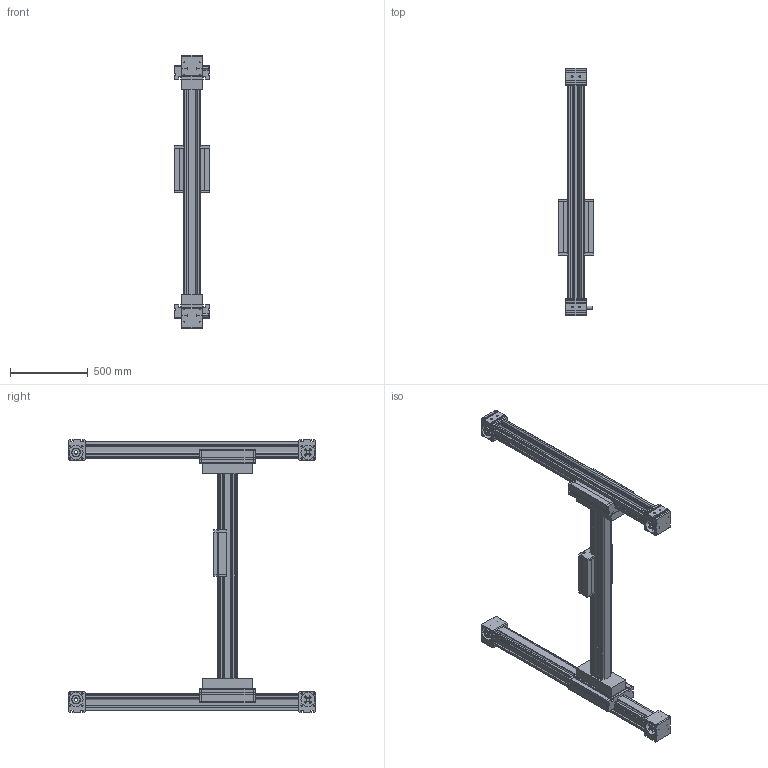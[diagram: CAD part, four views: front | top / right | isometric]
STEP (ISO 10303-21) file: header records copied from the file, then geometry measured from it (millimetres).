
FILE_DESCRIPTION (( 'STEP AP214' ), '1' );
FILE_NAME ('ELZU-100.STEP', '2016-01-14T10:15:24', ( 'admin' ), ( '' ), 'SwSTEP 2.0', 'SolidWorks 2015', '' );
FILE_SCHEMA (( 'AUTOMOTIVE_DESIGN' ));
Length unit declared in the file: millimetre
Products named in the file (12): Kopie von Bahr-ELZU-X-Axis - Q=331_ELZ100 Carriage (Y)^ELZU100 S0 A1_A; Kopie von Bahr-ELZU-X-Axis - Q=331_ELZ100 Extrusion (X)^ELZU100 S0 A1_0; Kopie von Bahr-ELZU-X-Axis - Q=331_ELZ100 Extrusion (Y)^ELZU100 S0 A1_0; Kopie von Bahr-ELZU-X-Axis - Q=331_Belt (X)^ELZU100 S0 A1; Kopie von Bahr-ELZU-X-Axis - Q=331_Belt (Y)^ELZU100 S0 A1; Kopie von Bahr-ELZU-X-Axis - Q=331_End_Block(4)^ELZU100 S0 A1_ELZ-100-B; Kopie von Bahr-ELZU-X-Axis - Q=331_End_Block(3)^ELZU100 S0 A1_ELZ-100-C; Kopie von Bahr-ELZU-X-Axis - Q=331_End_Block(2)^ELZU100 S0 A1_ELZ-100-A; Kopie von Bahr-ELZU-X-Axis - Q=331_End_Block(1)^ELZU100 S0 A1_ELZ-100-D; ELZU-100; Kopie von Umlenkung^ELZU100 S0 A1; Kopie von Bahr-ELZU-X-Axis - Q=331_ELZ100 Carriage (X)^ELZU100 S0 A1_A
Assembly tree (16 placements, depth 2):
  ELZU-100
    Kopie von Bahr-ELZU-X-Axis - Q=331_End_Block(1)^ELZU100 S0 A1_ELZ-100-D
    Kopie von Bahr-ELZU-X-Axis - Q=331_End_Block(2)^ELZU100 S0 A1_ELZ-100-A
    Kopie von Bahr-ELZU-X-Axis - Q=331_End_Block(3)^ELZU100 S0 A1_ELZ-100-C
    Kopie von Bahr-ELZU-X-Axis - Q=331_End_Block(4)^ELZU100 S0 A1_ELZ-100-B
    Kopie von Bahr-ELZU-X-Axis - Q=331_Belt (Y)^ELZU100 S0 A1  x2
    Kopie von Bahr-ELZU-X-Axis - Q=331_Belt (X)^ELZU100 S0 A1  x2
    Kopie von Bahr-ELZU-X-Axis - Q=331_ELZ100 Extrusion (Y)^ELZU100 S0 A1_0  x2
    Kopie von Bahr-ELZU-X-Axis - Q=331_ELZ100 Extrusion (X)^ELZU100 S0 A1_0
    Kopie von Bahr-ELZU-X-Axis - Q=331_ELZ100 Carriage (Y)^ELZU100 S0 A1_A  x2
    Kopie von Bahr-ELZU-X-Axis - Q=331_ELZ100 Carriage (X)^ELZU100 S0 A1_A
    Kopie von Umlenkung^ELZU100 S0 A1  x2
Bounding box: 230 x 1590 x 1758 mm (x, y, z)
Volume: 62938971.5 mm3; surface area: 5305103.1 mm2
Topology: 28 solids, 28 shells, 1399 faces, 3717 edges, 2418 vertices
Faces by surface type: plane 894, cylinder 445, bspline 24, torus 24, cone 12
Entity records: 34006 total; most frequent: CARTESIAN_POINT 6385, DIRECTION 5618, ORIENTED_EDGE 5576, EDGE_CURVE 2788, LINE 2024, VECTOR 2024, VERTEX_POINT 1828, AXIS2_PLACEMENT_3D 1797
